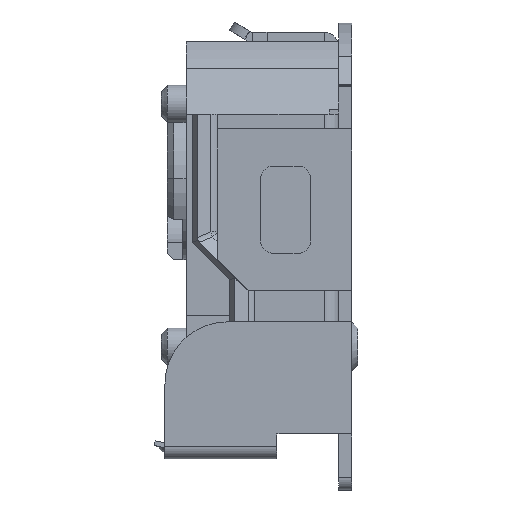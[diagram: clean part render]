
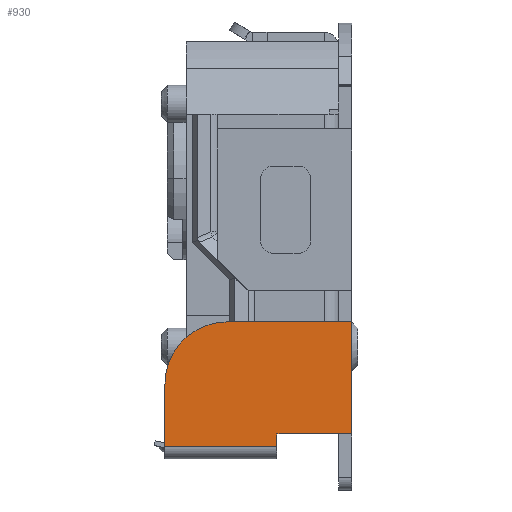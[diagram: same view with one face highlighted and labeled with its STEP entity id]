
A CAD part, left-side view. The second image highlights one B-rep face of the part: STEP entity #930.
In plain terms, the highlighted planar face has unit normal (-1, 0, 0).
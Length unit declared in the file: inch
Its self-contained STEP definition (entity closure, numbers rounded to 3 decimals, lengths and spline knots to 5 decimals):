
#930=ADVANCED_FACE('',(#2156),#2157,.F.);
#2156=FACE_OUTER_BOUND('',#4431,.T.);
#2157=PLANE('',#4432);
#4431=EDGE_LOOP('',(#7851,#7852,#7853,#7854,#7855,#7856,#7857));
#4432=AXIS2_PLACEMENT_3D('',#7858,#7859,#7860);
#7851=ORIENTED_EDGE('',*,*,#11602,.F.);
#7852=ORIENTED_EDGE('',*,*,#11603,.T.);
#7853=ORIENTED_EDGE('',*,*,#11604,.F.);
#7854=ORIENTED_EDGE('',*,*,#11605,.F.);
#7855=ORIENTED_EDGE('',*,*,#11606,.F.);
#7856=ORIENTED_EDGE('',*,*,#10827,.F.);
#7857=ORIENTED_EDGE('',*,*,#11054,.F.);
#7858=CARTESIAN_POINT('',(-0.14764,0.11811,0.08661));
#7859=DIRECTION('',(1.0,0.0,0.0));
#7860=DIRECTION('',(0.0,-1.0,0.0));
#10827=EDGE_CURVE('',#12836,#12838,#12839,.T.);
#11054=EDGE_CURVE('',#13209,#12836,#13211,.T.);
#11602=EDGE_CURVE('',#14042,#13209,#14043,.T.);
#11603=EDGE_CURVE('',#14042,#14044,#14045,.T.);
#11604=EDGE_CURVE('',#14046,#14044,#14047,.F.);
#11605=EDGE_CURVE('',#14048,#14046,#14049,.T.);
#11606=EDGE_CURVE('',#12838,#14048,#14050,.T.);
#12836=VERTEX_POINT('',#15774);
#12838=VERTEX_POINT('',#15777);
#12839=LINE('',#15778,#15779);
#13209=VERTEX_POINT('',#16323);
#13211=LINE('',#16326,#16327);
#14042=VERTEX_POINT('',#17568);
#14043=LINE('',#17569,#17570);
#14044=VERTEX_POINT('',#17571);
#14045=LINE('',#17572,#17573);
#14046=VERTEX_POINT('',#17574);
#14047=CIRCLE('',#17575,0.03937);
#14048=VERTEX_POINT('',#17576);
#14049=LINE('',#17577,#17578);
#14050=LINE('',#17579,#17580);
#15774=CARTESIAN_POINT('',(-0.14764,0.04724,0.01575));
#15777=CARTESIAN_POINT('',(-0.14764,0.04724,0.00787));
#15778=CARTESIAN_POINT('',(-0.14764,0.04724,0.04724));
#15779=VECTOR('',#19283,1000.0);
#16323=CARTESIAN_POINT('',(-0.14764,0.,0.01575));
#16326=CARTESIAN_POINT('',(-0.14764,0.05906,0.01575));
#16327=VECTOR('',#19573,1000.0);
#17568=CARTESIAN_POINT('',(-0.14764,0.0,0.08661));
#17569=CARTESIAN_POINT('',(-0.14764,0.0,0.04724));
#17570=VECTOR('',#20280,1000.0);
#17571=CARTESIAN_POINT('',(-0.14764,0.07874,0.08661));
#17572=CARTESIAN_POINT('',(-0.14764,0.03937,0.08661));
#17573=VECTOR('',#20281,1000.0);
#17574=CARTESIAN_POINT('',(-0.14764,0.11811,0.04724));
#17575=AXIS2_PLACEMENT_3D('',#20282,#20283,#20284);
#17576=CARTESIAN_POINT('',(-0.14764,0.11811,0.00787));
#17577=CARTESIAN_POINT('',(-0.14764,0.11811,0.04724));
#17578=VECTOR('',#20285,1000.0);
#17579=CARTESIAN_POINT('',(-0.14764,0.05906,0.00787));
#17580=VECTOR('',#20286,1000.0);
#19283=DIRECTION('',(0.0,0.0,-1.0));
#19573=DIRECTION('',(0.0,1.0,0.0));
#20280=DIRECTION('',(0.0,0.0,-1.0));
#20281=DIRECTION('',(0.0,1.0,0.0));
#20282=CARTESIAN_POINT('',(-0.14764,0.07874,0.04724));
#20283=DIRECTION('',(-1.0,0.0,0.0));
#20284=DIRECTION('',(0.0,0.0,-1.0));
#20285=DIRECTION('',(0.0,0.0,1.0));
#20286=DIRECTION('',(0.0,1.0,0.0));
